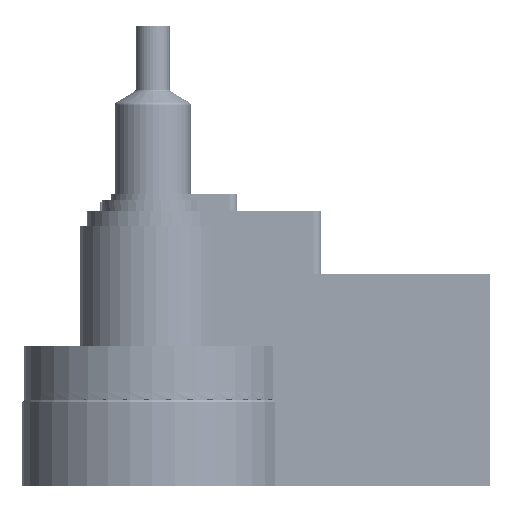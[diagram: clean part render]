
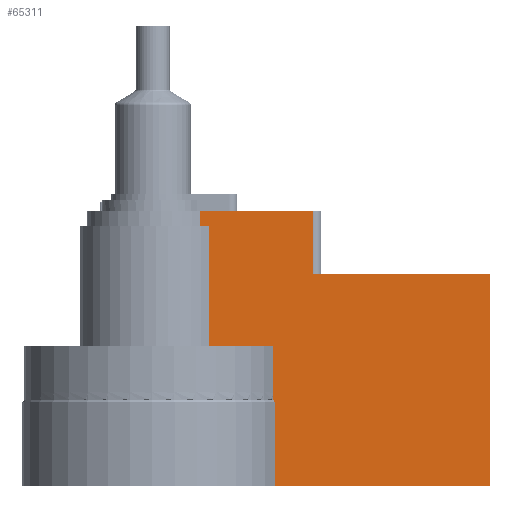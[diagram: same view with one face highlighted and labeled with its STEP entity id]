
A CAD part, front view. The second image highlights one B-rep face of the part: STEP entity #65311.
In plain terms, the highlighted planar face has unit normal (0, -1, 0).
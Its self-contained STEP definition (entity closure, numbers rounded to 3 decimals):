
#301 = DIRECTION ( 'NONE',  ( 0., 1., 0. ) ) ;
#381 = ORIENTED_EDGE ( 'NONE', *, *, #5744, .T. ) ;
#1282 = VECTOR ( 'NONE', #126604, 1000. ) ;
#2237 = CARTESIAN_POINT ( 'NONE',  ( 71.577, -27., -112. ) ) ;
#3109 = EDGE_LOOP ( 'NONE', ( #133309, #137907, #47298, #28828, #81937, #84020, #381, #39739, #42637, #105754, #18874, #126927, #99848 ) ) ;
#5744 = EDGE_CURVE ( 'NONE', #14186, #83200, #120942, .T. ) ;
#5958 = CARTESIAN_POINT ( 'NONE',  ( 71.783, -27., -112.333 ) ) ;
#7155 = VERTEX_POINT ( 'NONE', #17294 ) ;
#8241 = VECTOR ( 'NONE', #133805, 1000. ) ;
#9143 = CARTESIAN_POINT ( 'NONE',  ( 71.577, -27., -80. ) ) ;
#9355 = CARTESIAN_POINT ( 'NONE',  ( 33.466, -27., 34.716 ) ) ;
#10267 = EDGE_CURVE ( 'NONE', #120145, #14498, #52638, .T. ) ;
#12232 = EDGE_CURVE ( 'NONE', #42631, #61806, #42172, .T. ) ;
#14186 = VERTEX_POINT ( 'NONE', #41783 ) ;
#14498 = VERTEX_POINT ( 'NONE', #57324 ) ;
#15690 = LINE ( 'NONE', #125083, #32784 ) ;
#17294 = CARTESIAN_POINT ( 'NONE',  ( 95., -27., 0. ) ) ;
#18874 = ORIENTED_EDGE ( 'NONE', *, *, #106531, .F. ) ;
#22564 = VECTOR ( 'NONE', #115282, 1000. ) ;
#26779 = CARTESIAN_POINT ( 'NONE',  ( 72.645, -27., 34.716 ) ) ;
#27404 = EDGE_CURVE ( 'NONE', #7155, #83200, #113717, .T. ) ;
#28828 = ORIENTED_EDGE ( 'NONE', *, *, #47424, .F. ) ;
#28903 = DIRECTION ( 'NONE',  ( -1., 0., 0. ) ) ;
#31364 = EDGE_CURVE ( 'NONE', #101629, #132723, #46905, .T. ) ;
#32784 = VECTOR ( 'NONE', #93660, 1000. ) ;
#33064 = CARTESIAN_POINT ( 'NONE',  ( 95., -27., -37. ) ) ;
#35473 = DIRECTION ( 'NONE',  ( 0., 0., 1. ) ) ;
#36333 = EDGE_CURVE ( 'NONE', #101629, #7155, #96442, .T. ) ;
#36508 = CARTESIAN_POINT ( 'NONE',  ( 33.466, -27., -80. ) ) ;
#38392 = CARTESIAN_POINT ( 'NONE',  ( 71.988, -27., -112.667 ) ) ;
#39266 = CARTESIAN_POINT ( 'NONE',  ( 71.577, -27., 34.716 ) ) ;
#39739 = ORIENTED_EDGE ( 'NONE', *, *, #27404, .F. ) ;
#41783 = CARTESIAN_POINT ( 'NONE',  ( 200., -27., -37. ) ) ;
#42172 = LINE ( 'NONE', #39266, #1282 ) ;
#42631 = VERTEX_POINT ( 'NONE', #2237 ) ;
#42637 = ORIENTED_EDGE ( 'NONE', *, *, #36333, .F. ) ;
#43662 = PLANE ( 'NONE',  #99113 ) ;
#44421 = VECTOR ( 'NONE', #80065, 1000. ) ;
#46905 = LINE ( 'NONE', #47968, #82556 ) ;
#47298 = ORIENTED_EDGE ( 'NONE', *, *, #111845, .F. ) ;
#47424 = EDGE_CURVE ( 'NONE', #101598, #110232, #73223, .T. ) ;
#47968 = CARTESIAN_POINT ( 'NONE',  ( 28.142, -27., 89.886 ) ) ;
#49048 = FACE_OUTER_BOUND ( 'NONE', #3109, .T. ) ;
#52638 = LINE ( 'NONE', #9355, #56018 ) ;
#53173 = DIRECTION ( 'NONE',  ( -1., 0., 0. ) ) ;
#54286 = EDGE_CURVE ( 'NONE', #14186, #86683, #15690, .T. ) ;
#56018 = VECTOR ( 'NONE', #99656, 1000. ) ;
#57268 = CARTESIAN_POINT ( 'NONE',  ( 28.142, -27., 0. ) ) ;
#57324 = CARTESIAN_POINT ( 'NONE',  ( 33.466, -27., -9. ) ) ;
#58801 = CARTESIAN_POINT ( 'NONE',  ( 72.194, -27., -113. ) ) ;
#61806 = VERTEX_POINT ( 'NONE', #9143 ) ;
#65197 = LINE ( 'NONE', #83940, #22564 ) ;
#65311 = ADVANCED_FACE ( 'NONE', ( #49048 ), #43662, .F. ) ;
#66793 = CARTESIAN_POINT ( 'NONE',  ( 72.645, -27., -163. ) ) ;
#67251 = VECTOR ( 'NONE', #122772, 1000. ) ;
#67875 = CARTESIAN_POINT ( 'NONE',  ( 0., -27., -80. ) ) ;
#73223 = LINE ( 'NONE', #26779, #44421 ) ;
#75808 = VECTOR ( 'NONE', #53173, 1000. ) ;
#78854 = DIRECTION ( 'NONE',  ( -1., 0., 0. ) ) ;
#79240 = CARTESIAN_POINT ( 'NONE',  ( 72.645, -27., -113. ) ) ;
#80065 = DIRECTION ( 'NONE',  ( 0., 0., 1. ) ) ;
#80635 = CARTESIAN_POINT ( 'NONE',  ( 28.142, -27., -9. ) ) ;
#81937 = ORIENTED_EDGE ( 'NONE', *, *, #136370, .F. ) ;
#82556 = VECTOR ( 'NONE', #91592, 1000. ) ;
#83200 = VERTEX_POINT ( 'NONE', #33064 ) ;
#83940 = CARTESIAN_POINT ( 'NONE',  ( 200., -27., -163. ) ) ;
#84020 = ORIENTED_EDGE ( 'NONE', *, *, #54286, .F. ) ;
#86683 = VERTEX_POINT ( 'NONE', #102736 ) ;
#87003 = VECTOR ( 'NONE', #28903, 1000. ) ;
#91592 = DIRECTION ( 'NONE',  ( 0., 0., -1. ) ) ;
#93660 = DIRECTION ( 'NONE',  ( 0., 0., -1. ) ) ;
#96442 = LINE ( 'NONE', #57268, #67251 ) ;
#99113 = AXIS2_PLACEMENT_3D ( 'NONE', #130494, #301, #35473 ) ;
#99656 = DIRECTION ( 'NONE',  ( 0., 0., 1. ) ) ;
#99848 = ORIENTED_EDGE ( 'NONE', *, *, #104494, .F. ) ;
#100275 = LINE ( 'NONE', #112027, #8241 ) ;
#101598 = VERTEX_POINT ( 'NONE', #66793 ) ;
#101629 = VERTEX_POINT ( 'NONE', #131841 ) ;
#102736 = CARTESIAN_POINT ( 'NONE',  ( 200., -27., -163. ) ) ;
#104494 = EDGE_CURVE ( 'NONE', #61806, #120145, #133914, .T. ) ;
#105754 = ORIENTED_EDGE ( 'NONE', *, *, #31364, .T. ) ;
#106531 = EDGE_CURVE ( 'NONE', #14498, #132723, #113246, .T. ) ;
#110232 = VERTEX_POINT ( 'NONE', #79240 ) ;
#111845 = EDGE_CURVE ( 'NONE', #110232, #119523, #100275, .T. ) ;
#111984 = VECTOR ( 'NONE', #128624, 1000. ) ;
#112027 = CARTESIAN_POINT ( 'NONE',  ( 0., -27., -113. ) ) ;
#113246 = LINE ( 'NONE', #118177, #75808 ) ;
#113717 = LINE ( 'NONE', #117212, #111984 ) ;
#115282 = DIRECTION ( 'NONE',  ( -1., 0., 0. ) ) ;
#115851 = CARTESIAN_POINT ( 'NONE',  ( 200., -27., -37. ) ) ;
#117040 = VECTOR ( 'NONE', #78854, 1000. ) ;
#117212 = CARTESIAN_POINT ( 'NONE',  ( 95., -27., 89.886 ) ) ;
#118177 = CARTESIAN_POINT ( 'NONE',  ( 0., -27., -9. ) ) ;
#119523 = VERTEX_POINT ( 'NONE', #122185 ) ;
#120145 = VERTEX_POINT ( 'NONE', #36508 ) ;
#120942 = LINE ( 'NONE', #115851, #87003 ) ;
#122185 = CARTESIAN_POINT ( 'NONE',  ( 72.194, -27., -113. ) ) ;
#122772 = DIRECTION ( 'NONE',  ( 1., 0., 0. ) ) ;
#123875 = CARTESIAN_POINT ( 'NONE',  ( 71.577, -27., -112. ) ) ;
#125083 = CARTESIAN_POINT ( 'NONE',  ( 200., -27., -37. ) ) ;
#126604 = DIRECTION ( 'NONE',  ( 0., 0., 1. ) ) ;
#126927 = ORIENTED_EDGE ( 'NONE', *, *, #10267, .F. ) ;
#128624 = DIRECTION ( 'NONE',  ( 0., 0., -1. ) ) ;
#128802 = B_SPLINE_CURVE_WITH_KNOTS ( 'NONE', 3,
 ( #123875, #5958, #38392, #58801 ),
 .UNSPECIFIED., .F., .F.,
 ( 4, 4 ),
 ( 0., 0.001 ),
 .UNSPECIFIED. ) ;
#129627 = EDGE_CURVE ( 'NONE', #42631, #119523, #128802, .T. ) ;
#130494 = CARTESIAN_POINT ( 'NONE',  ( 200., -27., -37. ) ) ;
#131841 = CARTESIAN_POINT ( 'NONE',  ( 28.142, -27., 0. ) ) ;
#132723 = VERTEX_POINT ( 'NONE', #80635 ) ;
#133309 = ORIENTED_EDGE ( 'NONE', *, *, #12232, .F. ) ;
#133805 = DIRECTION ( 'NONE',  ( -1., 0., 0. ) ) ;
#133914 = LINE ( 'NONE', #67875, #117040 ) ;
#136370 = EDGE_CURVE ( 'NONE', #86683, #101598, #65197, .T. ) ;
#137907 = ORIENTED_EDGE ( 'NONE', *, *, #129627, .T. ) ;
